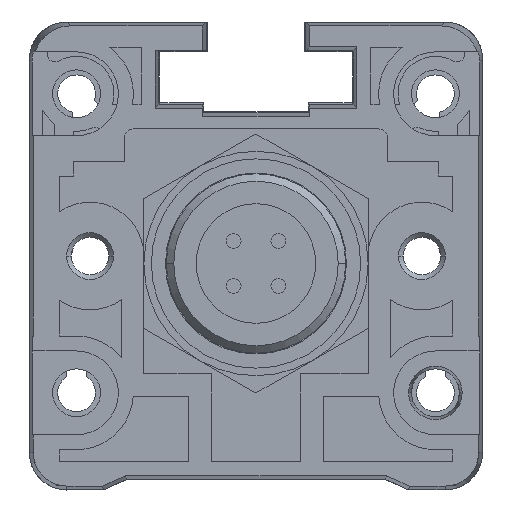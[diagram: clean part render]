
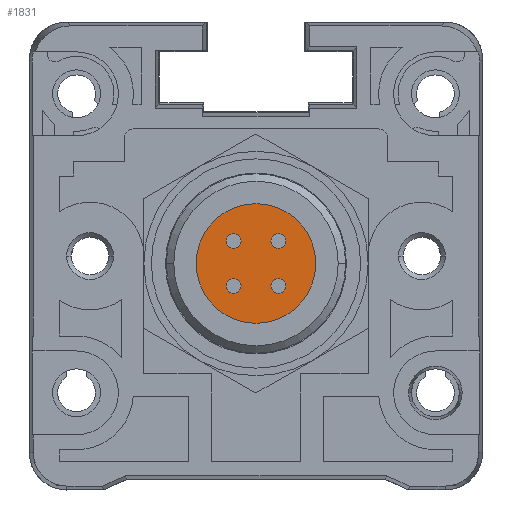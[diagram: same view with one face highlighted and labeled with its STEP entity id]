
A CAD part, left-side view. The second image highlights one B-rep face of the part: STEP entity #1831.
In plain terms, the highlighted planar face has unit normal (-1, 0, 0) as drawn and (1, 0, 0) by its records, which use the part's own axes.
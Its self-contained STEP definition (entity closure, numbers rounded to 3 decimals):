
#1093=FACE_BOUND('',#3312,.T.);
#1094=FACE_BOUND('',#3313,.T.);
#1095=FACE_BOUND('',#3314,.T.);
#1096=FACE_BOUND('',#3315,.T.);
#1097=FACE_BOUND('',#3316,.T.);
#1831=ADVANCED_FACE('',(#1093,#1094,#1095,#1096,#1097),#2221,.T.);
#2221=PLANE('',#12305);
#3312=EDGE_LOOP('',(#8631,#8632));
#3313=EDGE_LOOP('',(#8633,#8634));
#3314=EDGE_LOOP('',(#8635,#8636));
#3315=EDGE_LOOP('',(#8637,#8638));
#3316=EDGE_LOOP('',(#8639,#8640));
#8631=ORIENTED_EDGE('',*,*,#11154,.T.);
#8632=ORIENTED_EDGE('',*,*,#11152,.T.);
#8633=ORIENTED_EDGE('',*,*,#11155,.F.);
#8634=ORIENTED_EDGE('',*,*,#11156,.F.);
#8635=ORIENTED_EDGE('',*,*,#11157,.F.);
#8636=ORIENTED_EDGE('',*,*,#11158,.F.);
#8637=ORIENTED_EDGE('',*,*,#11159,.F.);
#8638=ORIENTED_EDGE('',*,*,#11160,.F.);
#8639=ORIENTED_EDGE('',*,*,#11161,.F.);
#8640=ORIENTED_EDGE('',*,*,#11162,.F.);
#9656=VERTEX_POINT('',#18272);
#9657=VERTEX_POINT('',#18274);
#9658=VERTEX_POINT('',#18280);
#9659=VERTEX_POINT('',#18281);
#9660=VERTEX_POINT('',#18284);
#9661=VERTEX_POINT('',#18285);
#9662=VERTEX_POINT('',#18288);
#9663=VERTEX_POINT('',#18289);
#9664=VERTEX_POINT('',#18292);
#9665=VERTEX_POINT('',#18293);
#11152=EDGE_CURVE('',#9657,#9656,#11447,.T.);
#11154=EDGE_CURVE('',#9656,#9657,#11448,.T.);
#11155=EDGE_CURVE('',#9658,#9659,#11449,.T.);
#11156=EDGE_CURVE('',#9659,#9658,#11450,.T.);
#11157=EDGE_CURVE('',#9660,#9661,#11451,.T.);
#11158=EDGE_CURVE('',#9661,#9660,#11452,.T.);
#11159=EDGE_CURVE('',#9662,#9663,#11453,.T.);
#11160=EDGE_CURVE('',#9663,#9662,#11454,.T.);
#11161=EDGE_CURVE('',#9664,#9665,#11455,.T.);
#11162=EDGE_CURVE('',#9665,#9664,#11456,.T.);
#11447=CIRCLE('',#12293,4.);
#11448=CIRCLE('',#12295,4.);
#11449=CIRCLE('',#12297,0.5);
#11450=CIRCLE('',#12298,0.5);
#11451=CIRCLE('',#12299,0.5);
#11452=CIRCLE('',#12300,0.5);
#11453=CIRCLE('',#12301,0.5);
#11454=CIRCLE('',#12302,0.5);
#11455=CIRCLE('',#12303,0.5);
#11456=CIRCLE('',#12304,0.5);
#12293=AXIS2_PLACEMENT_3D('',#18273,#15154,#15155);
#12295=AXIS2_PLACEMENT_3D('',#18277,#15159,#15160);
#12297=AXIS2_PLACEMENT_3D('',#18279,#15163,#15164);
#12298=AXIS2_PLACEMENT_3D('',#18282,#15165,#15166);
#12299=AXIS2_PLACEMENT_3D('',#18283,#15167,#15168);
#12300=AXIS2_PLACEMENT_3D('',#18286,#15169,#15170);
#12301=AXIS2_PLACEMENT_3D('',#18287,#15171,#15172);
#12302=AXIS2_PLACEMENT_3D('',#18290,#15173,#15174);
#12303=AXIS2_PLACEMENT_3D('',#18291,#15175,#15176);
#12304=AXIS2_PLACEMENT_3D('',#18294,#15177,#15178);
#12305=AXIS2_PLACEMENT_3D('',#18295,#15179,#15180);
#15154=DIRECTION('',(1.,0.,0.));
#15155=DIRECTION('',(0.,-1.,0.));
#15159=DIRECTION('',(1.,0.,0.));
#15160=DIRECTION('',(0.,1.,0.));
#15163=DIRECTION('',(1.,0.,0.));
#15164=DIRECTION('',(0.,1.,0.));
#15165=DIRECTION('',(1.,0.,0.));
#15166=DIRECTION('',(0.,-1.,0.));
#15167=DIRECTION('',(1.,0.,0.));
#15168=DIRECTION('',(0.,1.,0.));
#15169=DIRECTION('',(1.,0.,0.));
#15170=DIRECTION('',(0.,-1.,0.));
#15171=DIRECTION('',(1.,0.,0.));
#15172=DIRECTION('',(0.,1.,0.));
#15173=DIRECTION('',(1.,0.,0.));
#15174=DIRECTION('',(0.,-1.,0.));
#15175=DIRECTION('',(1.,0.,0.));
#15176=DIRECTION('',(0.,1.,0.));
#15177=DIRECTION('',(1.,0.,0.));
#15178=DIRECTION('',(0.,-1.,0.));
#15179=DIRECTION('',(1.,0.,0.));
#15180=DIRECTION('',(0.,-1.,0.));
#18272=CARTESIAN_POINT('',(5.,4.,0.));
#18273=CARTESIAN_POINT('',(5.,0.,0.));
#18274=CARTESIAN_POINT('',(5.,-4.,0.));
#18277=CARTESIAN_POINT('',(5.,0.,0.));
#18279=CARTESIAN_POINT('',(5.,-1.5,-1.5));
#18280=CARTESIAN_POINT('',(5.,-1.,-1.5));
#18281=CARTESIAN_POINT('',(5.,-2.,-1.5));
#18282=CARTESIAN_POINT('',(5.,-1.5,-1.5));
#18283=CARTESIAN_POINT('',(5.,1.5,-1.5));
#18284=CARTESIAN_POINT('',(5.,2.,-1.5));
#18285=CARTESIAN_POINT('',(5.,1.,-1.5));
#18286=CARTESIAN_POINT('',(5.,1.5,-1.5));
#18287=CARTESIAN_POINT('',(5.,1.5,1.5));
#18288=CARTESIAN_POINT('',(5.,2.,1.5));
#18289=CARTESIAN_POINT('',(5.,1.,1.5));
#18290=CARTESIAN_POINT('',(5.,1.5,1.5));
#18291=CARTESIAN_POINT('',(5.,-1.5,1.5));
#18292=CARTESIAN_POINT('',(5.,-1.,1.5));
#18293=CARTESIAN_POINT('',(5.,-2.,1.5));
#18294=CARTESIAN_POINT('',(5.,-1.5,1.5));
#18295=CARTESIAN_POINT('',(5.,0.,0.));
